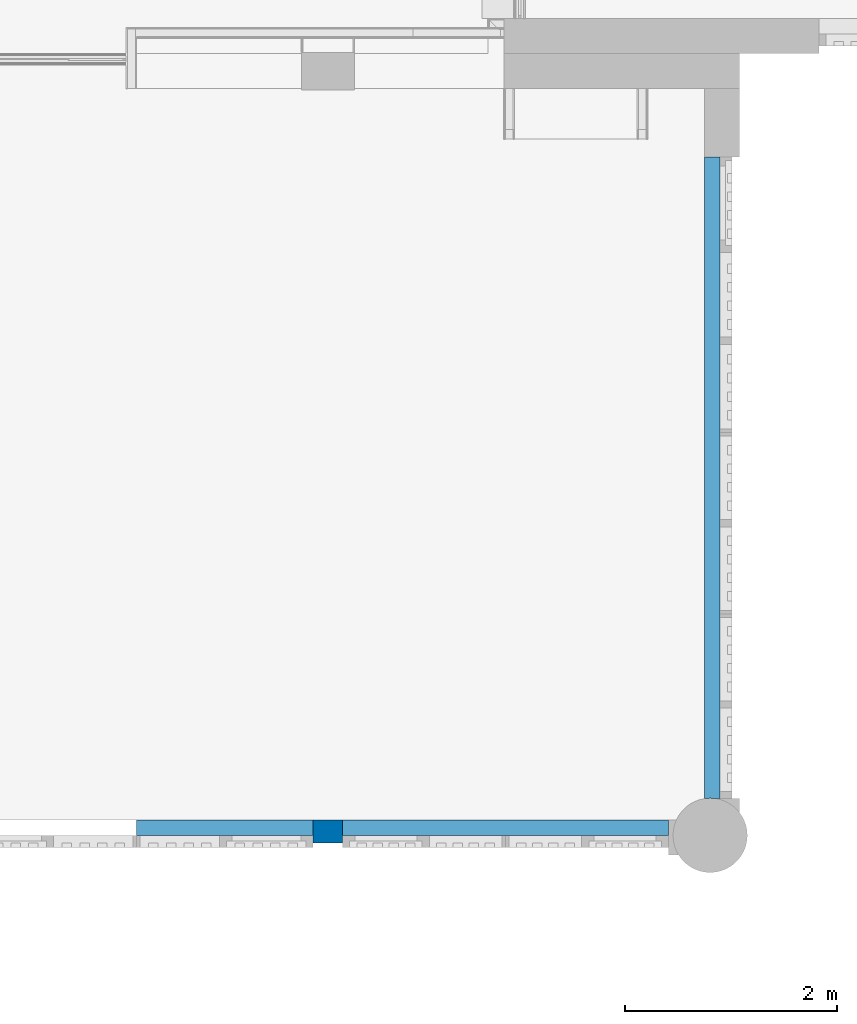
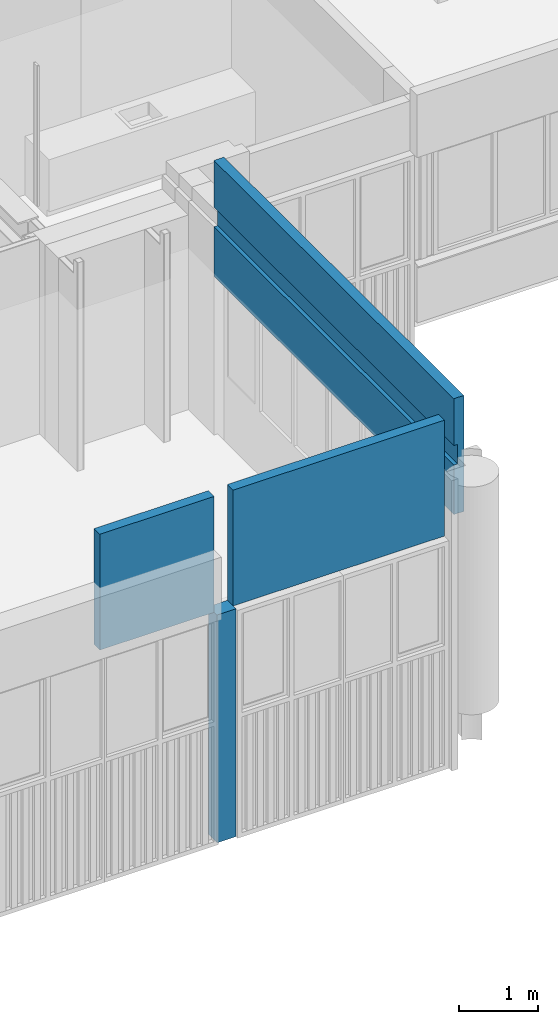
# One storey, part 54 of 117: 4 walls.
"""IFC2X3 building model written with IfcOpenShell, lengths in millimetres."""

from ifc_helpers import new_model, entity, si_unit, converted_unit, derived_unit, money_unit, direction, frame, origin_with_axes, place, context, subcontext, project, spatial, faceted_brep, material, type_object, element, save


model = new_model("IFC2X3")

# Units and contexts
model_context = context("Model", 3, precision=0.01, world=origin_with_axes(), true_north=direction((0.0, 1.0)))
body_context = subcontext(model_context, "Body", "Model", "MODEL_VIEW")
ifc_project = project(units=[si_unit("LENGTHUNIT", "METRE", prefix="MILLI"), si_unit("AREAUNIT", "SQUARE_METRE"), si_unit("VOLUMEUNIT", "CUBIC_METRE"), converted_unit("PLANEANGLEUNIT", "DEGREE", entity("IfcPlaneAngleMeasure", 0.0174532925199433), si_unit("PLANEANGLEUNIT", "RADIAN"), dimensions=[0, 0, 0, 0, 0, 0, 0]), money_unit("EUR"), converted_unit("TIMEUNIT", "Year", entity("IfcTimeMeasure", 31557600.0), si_unit("TIMEUNIT", "SECOND"), dimensions=[0, 0, 1, 0, 0, 0, 0]), si_unit("MASSUNIT", "GRAM", prefix="KILO"), si_unit("THERMODYNAMICTEMPERATUREUNIT", "DEGREE_CELSIUS"), si_unit("LUMINOUSINTENSITYUNIT", "LUMEN"), si_unit("ENERGYUNIT", "JOULE", prefix="MEGA"), derived_unit("THERMALCONDUCTANCEUNIT", [(si_unit("POWERUNIT", "WATT"), 1), (si_unit("LENGTHUNIT", "METRE"), -1), (si_unit("THERMODYNAMICTEMPERATUREUNIT", "KELVIN"), -1)]), derived_unit("SPECIFICHEATCAPACITYUNIT", [(si_unit("ENERGYUNIT", "JOULE"), 1), (si_unit("MASSUNIT", "GRAM", prefix="KILO"), -1), (si_unit("THERMODYNAMICTEMPERATUREUNIT", "KELVIN"), -1)]), derived_unit("MASSDENSITYUNIT", [(si_unit("MASSUNIT", "GRAM", prefix="KILO"), 1), (si_unit("VOLUMEUNIT", "CUBIC_METRE"), -1)])], contexts=[model_context])

# Site, building, storey
site_placement = place(None, origin_with_axes())
site = spatial("IfcSite", under=ifc_project, at=site_placement, Name="Site", CompositionType="ELEMENT")
building_placement = place(site_placement, origin_with_axes())
building = spatial("IfcBuilding", under=site, at=building_placement, Name="Naam gebouw", CompositionType="ELEMENT")
storey_placement = place(building_placement, frame((0.0, 0.0, 4150.0), z_axis=(0.0, 0.0, 1.0), x_axis=(1.0, 0.0, 0.0)))
storey = spatial("IfcBuildingStorey", under=building, at=storey_placement, Name="1e verdieping N", CompositionType="ELEMENT", Elevation=4150.0)

# Walls
ifc_material_1 = material(Name="ALG - CONSTRUCTIEF")
wall_type_1 = type_object("IfcWallType", Name="ALG - CONSTRUCTIEF 146", PredefinedType="NOTDEFINED")
wall_1_placement = place(storey_placement, frame((26999.95659076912, 3445.658971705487, 2440.0), z_axis=(0.0, 0.0, 1.0), x_axis=(0.999999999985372, 5.408888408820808e-06, 0.0)))
element("IfcWall", 1, at=wall_1_placement, inside=storey, type_object=wall_type_1, material=ifc_material_1, Name="_Wand-x", context=body_context, shape_type="Brep", body=[
    faceted_brep([(-0.0007896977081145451, -145.9999999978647, 0.0), (0.0, 0.0, 0.0), (1662.543409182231, -0.00899251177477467, 0.0), (1662.542619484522, -146.0089925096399, 0.0), (-0.0007896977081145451, -145.9999999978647, 1780.000000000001), (0.0, 0.0, 1780.000000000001), (1662.543409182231, -0.00899251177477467, 1780.000000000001), (1662.542619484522, -146.0089925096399, 1780.000000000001)], [[[0, 1, 2, 3]], [[4, 5, 1, 0]], [[1, 5, 6, 2]], [[7, 3, 2, 6]], [[4, 0, 3, 7]], [[5, 4, 7, 6]]]),
])
wall_2_placement = place(storey_placement, frame((32345.47252805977, 3645.949107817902, 2440.0), z_axis=(0.0, 0.0, 1.0), x_axis=(-3.754935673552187e-07, 0.9999999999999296, 0.0)))
element("IfcWall", 2, at=wall_2_placement, inside=storey, type_object=wall_type_1, material=ifc_material_1, Name="_Wand-x", context=body_context, shape_type="Brep", body=[
    faceted_brep([(0.0, -107.6106208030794, 1780.000000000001), (0.7119891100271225, -104.3376656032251, 1780.000000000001), (0.7119891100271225, -104.3376656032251, 0.0), (0.0, -107.6106208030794, 0.0), (0.7120265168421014, -4.71727881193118, 1780.000000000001), (4.274503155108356, -54.52747354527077, 1780.000000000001), (0.0, -145.9999999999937, 1780.000000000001), (6040.000582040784, -145.9999999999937, 1780.000000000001), (6040.000582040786, 0.0, 1780.000000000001), (0.0, 0.0, 1780.000000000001), (0.0, -1.444139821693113, 1780.000000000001), (4.274503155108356, -54.52747354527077, 1060.0), (4.274503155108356, -54.52747354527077, 760.0000000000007), (4.274503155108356, -54.52747354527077, 0.0), (0.7120265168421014, -4.71727881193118, 0.0), (0.0, -1.444139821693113, 0.0), (0.0, 0.0, 0.0), (6040.000582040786, 0.0, 0.0), (6040.000582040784, -145.9999999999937, 0.0), (0.0, -145.9999999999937, 0.0), (0.7120265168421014, -4.71727881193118, 1060.0), (6040.000582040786, 0.0, 760.0000000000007), (6040.000582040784, -54.52973992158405, 760.0000000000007), (6040.000582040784, -54.52973992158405, 1060.0), (6040.000582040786, 0.0, 1060.0), (0.0, 0.0, 1060.0), (0.0, -1.444139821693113, 1060.0), (0.7120265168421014, -4.71727881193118, 760.0000000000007), (0.0, -1.444139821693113, 760.0000000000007), (0.0, 0.0, 760.0000000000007)], [[[0, 1, 2, 3]], [[4, 5, 1, 0, 6, 7, 8, 9, 10]], [[5, 11, 12, 13, 2, 1]], [[13, 14, 15, 16, 17, 18, 19, 3, 2]], [[0, 3, 19, 6]], [[11, 5, 4, 20]], [[7, 6, 19, 18]], [[18, 17, 21, 22, 23, 24, 8, 7]], [[9, 8, 24, 25]], [[25, 26, 10, 9]], [[20, 4, 10, 26]], [[22, 12, 11, 23]], [[13, 12, 27, 14]], [[14, 27, 28, 15]], [[16, 15, 28, 29]], [[17, 16, 29, 21]], [[11, 20, 26, 25, 24, 23]], [[28, 27, 12, 22, 21, 29]]]),
])
wall_3_placement = place(storey_placement, frame((28937.49999999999, 3445.658971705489, 2440.0), z_axis=(0.0, 0.0, 1.0), x_axis=(0.999999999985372, 5.408888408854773e-06, 0.0)))
element("IfcWall", 3, at=wall_3_placement, inside=storey, type_object=wall_type_1, material=ifc_material_1, Name="_Wand-x", context=body_context, shape_type="Brep", body=[
    faceted_brep([(-0.0007896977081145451, -145.9999999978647, 0.0), (0.0, 0.0, 0.0), (3070.037808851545, -0.01660549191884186, 0.0), (3070.037019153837, -146.016605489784, 0.0), (-0.0007896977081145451, -145.9999999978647, 1780.000000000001), (0.0, 0.0, 1780.000000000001), (3070.037808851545, -0.01660549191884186, 1780.000000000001), (3070.037019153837, -146.0166054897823, 1780.000000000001)], [[[0, 1, 2, 3]], [[4, 5, 1, 0]], [[1, 5, 6, 2]], [[7, 3, 2, 6]], [[4, 0, 3, 7]], [[5, 4, 7, 6]]]),
])
ifc_material_2 = material(Name="ALG - GEVEL")
wall_type_2 = type_object("IfcWallType", Name="ALG - GEVEL 260", PredefinedType="NOTDEFINED")
wall_4_placement = place(storey_placement, frame((28662.53780894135, 3185.668707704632, -1060.0), z_axis=(0.0, 0.0, 1.0), x_axis=(1.0, 0.0, 0.0)))
element("IfcWall", 4, at=wall_4_placement, inside=storey, type_object=wall_type_2, material=ifc_material_2, Name="_Wand-x", context=body_context, shape_type="Brep", body=[
    faceted_brep([(0.0, 44.00000000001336, 3500.0), (275.0000000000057, 44.00000000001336, 3500.0), (275.0000000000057, 260.0000000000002, 3500.0), (0.0, 260.0000000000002, 3500.0), (0.0, 44.00000000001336, 0.0), (275.0000000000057, 44.00000000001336, 0.0), (275.0000000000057, 260.0000000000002, 0.0), (0.0, 260.0000000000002, 0.0)], [[[0, 1, 2, 3]], [[0, 4, 5, 1]], [[2, 1, 5, 6]], [[7, 3, 2, 6]], [[7, 4, 0, 3]], [[5, 4, 7, 6]]]),
])

save(model, "model.ifc")
